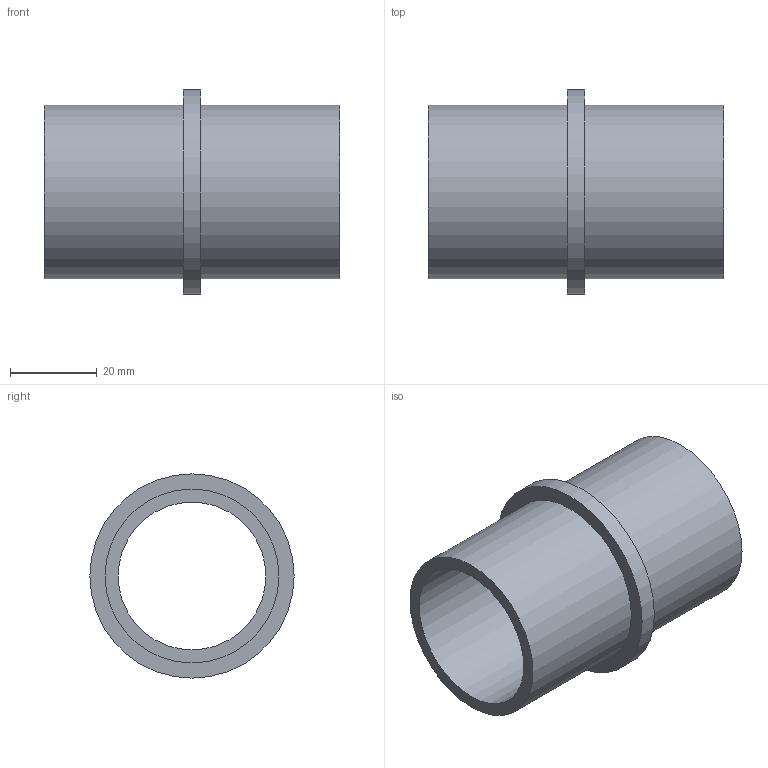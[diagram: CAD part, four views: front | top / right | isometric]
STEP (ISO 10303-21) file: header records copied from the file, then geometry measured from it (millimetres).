
FILE_DESCRIPTION(/* description */ (''),/* implementation_level */ '2;1');
FILE_NAME(/* name */ 'Z:\Geberit\Export\NewStep\Bundbüchse_Einzelteil\stp\360772.stp',/* time_stamp */ '2014-04-03T12:06:13+02:00',/* author */ ('nelson'),/* organization */ (''),/* preprocessor_version */ 'ST-DEVELOPER v15.2',/* originating_system */ 'Autodesk Inventor 2014',/* authorisation */ '');
FILE_SCHEMA (('AUTOMOTIVE_DESIGN { 1 0 10303 214 3 1 1 }'));
Length unit declared in the file: millimetre
Products named in the file (1): 360772
Bounding box: 68 x 47 x 47 mm (x, y, z)
Volume: 25626 mm3; surface area: 17550.5 mm2
Topology: 1 solids, 1 shells, 8 faces, 12 edges, 8 vertices
Faces by surface type: cylinder 4, plane 4
Full cylindrical faces by diameter (mm): 34 x1, 40 x2, 47 x1
Entity records: 190 total; most frequent: DIRECTION 34, CARTESIAN_POINT 25, AXIS2_PLACEMENT_3D 17, EDGE_LOOP 16, ORIENTED_EDGE 16, FACE_BOUND 10, CIRCLE 8, VERTEX_POINT 8
